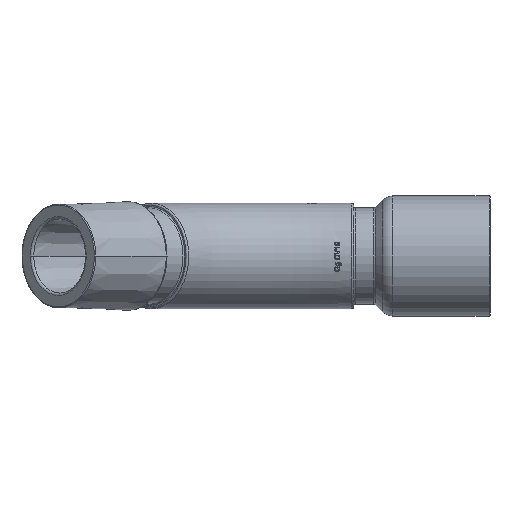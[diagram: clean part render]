
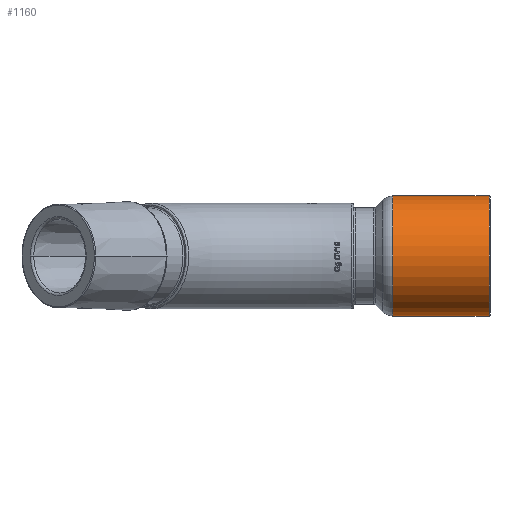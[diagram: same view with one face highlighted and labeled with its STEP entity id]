
A CAD part, left-side view. The second image highlights one B-rep face of the part: STEP entity #1160.
In plain terms, the highlighted cylindrical face has radius 12.5 mm (diameter 25 mm), a partial arc.
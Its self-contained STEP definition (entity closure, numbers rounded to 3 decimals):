
#236=CYLINDRICAL_SURFACE('',#4580,12.5);
#733=LINE('',#5875,#926);
#734=LINE('',#5876,#927);
#926=VECTOR('',#4951,1.);
#927=VECTOR('',#4952,1.);
#1160=ADVANCED_FACE('',(#1469),#236,.T.);
#1469=FACE_OUTER_BOUND('',#1706,.T.);
#1706=EDGE_LOOP('',(#2064,#2065,#2066,#2067));
#2064=ORIENTED_EDGE('',*,*,#3806,.F.);
#2065=ORIENTED_EDGE('',*,*,#3808,.T.);
#2066=ORIENTED_EDGE('',*,*,#3807,.T.);
#2067=ORIENTED_EDGE('',*,*,#3809,.T.);
#3326=VERTEX_POINT('',#5769);
#3327=VERTEX_POINT('',#5770);
#3336=VERTEX_POINT('',#5794);
#3337=VERTEX_POINT('',#5795);
#3806=EDGE_CURVE('',#3337,#3326,#733,.T.);
#3807=EDGE_CURVE('',#3336,#3327,#734,.T.);
#3808=EDGE_CURVE('',#3337,#3336,#4447,.T.);
#3809=EDGE_CURVE('',#3327,#3326,#4448,.T.);
#4447=CIRCLE('',#4578,12.5);
#4448=CIRCLE('',#4579,12.5);
#4578=AXIS2_PLACEMENT_3D('',#5878,#4955,#4956);
#4579=AXIS2_PLACEMENT_3D('',#5879,#4957,#4958);
#4580=AXIS2_PLACEMENT_3D('',#5880,#4959,#4960);
#4951=DIRECTION('',(0.,1.,0.));
#4952=DIRECTION('',(0.,1.,0.));
#4955=DIRECTION('',(0.,1.,0.));
#4956=DIRECTION('',(0.,0.,-1.));
#4957=DIRECTION('',(0.,-1.,0.));
#4958=DIRECTION('',(0.,0.,1.));
#4959=DIRECTION('',(0.,1.,0.));
#4960=DIRECTION('',(0.,0.,-1.));
#5769=CARTESIAN_POINT('',(-180.,68.005,-94.5));
#5770=CARTESIAN_POINT('',(-180.,68.005,-69.5));
#5794=CARTESIAN_POINT('',(-180.,47.947,-69.5));
#5795=CARTESIAN_POINT('',(-180.,47.947,-94.5));
#5875=CARTESIAN_POINT('',(-180.,71.747,-94.5));
#5876=CARTESIAN_POINT('',(-180.,71.747,-69.5));
#5878=CARTESIAN_POINT('',(-180.,47.947,-82.));
#5879=CARTESIAN_POINT('',(-180.,68.005,-82.));
#5880=CARTESIAN_POINT('',(-180.,71.747,-82.));
